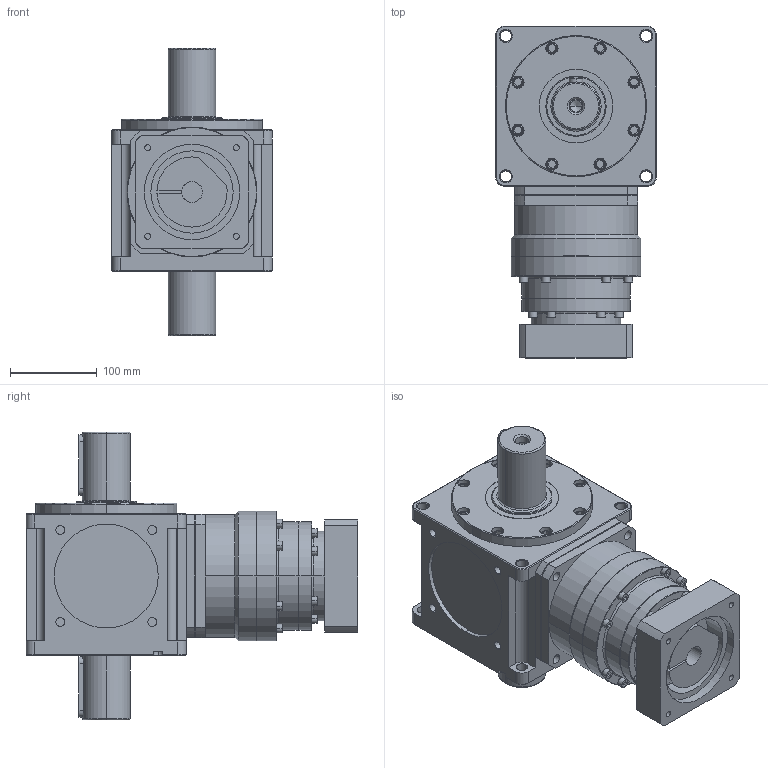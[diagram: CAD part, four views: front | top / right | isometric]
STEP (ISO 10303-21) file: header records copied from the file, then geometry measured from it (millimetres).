
FILE_DESCRIPTION (( 'STEP AP214' ), '1' );
FILE_NAME ('CCW185A-L3(24-200)-2P 24-110-145-M8.STEP', '2025-05-26T07:00:17', ( '微软用户' ), ( '微软中国' ), 'SwSTEP 2.0', 'SolidWorks 2024', '' );
FILE_SCHEMA (( 'AUTOMOTIVE_DESIGN' ));
Length unit declared in the file: millimetre
Products named in the file (3): CCW185A-L3(24-200)-2P 24-110-145-M8; CCW185A-002-2P箱体; VRB-142-L2-S2-P1 24-110-145-M8
Assembly tree (2 placements, depth 2):
  CCW185A-L3(24-200)-2P 24-110-145-M8
    VRB-142-L2-S2-P1 24-110-145-M8
    CCW185A-002-2P箱体
Bounding box: 185 x 383 x 332 mm (x, y, z)
Volume: 8807176.1 mm3; surface area: 450482.9 mm2
Topology: 2 solids, 2 shells, 663 faces, 1571 edges, 989 vertices
Faces by surface type: plane 342, cylinder 213, cone 70, torus 38
Entity records: 19528 total; most frequent: CARTESIAN_POINT 3627, DIRECTION 3508, ORIENTED_EDGE 3130, EDGE_CURVE 1565, AXIS2_PLACEMENT_3D 1310, VERTEX_POINT 989, LINE 888, VECTOR 888
